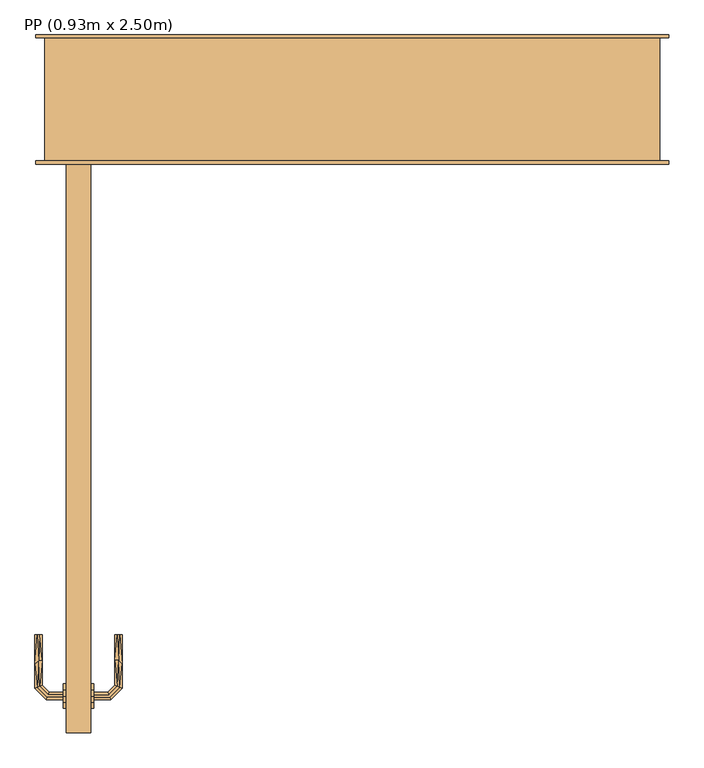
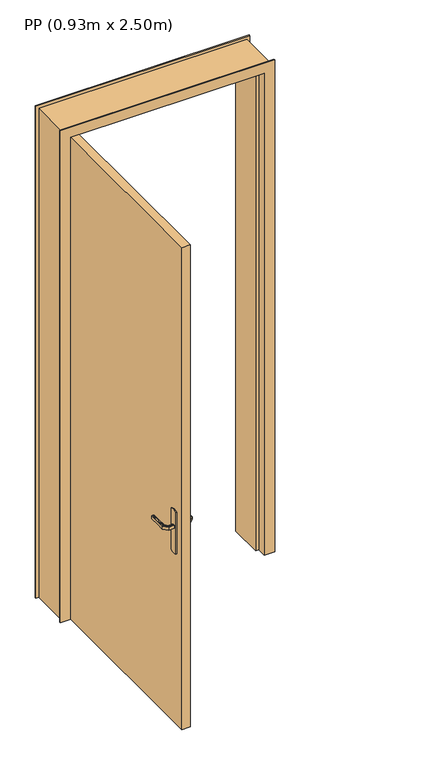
"""IFC4 building model written with IfcOpenShell, lengths in millimetres: door geometry, PP (0.93m x 2.50m)."""

from ifc_helpers import new_model, si_unit, frame, origin, origin_with_axes, place, context, project, spatial, polyline, outline, extrude, faceted_brep, source, transform, mapped, element, save


def pp_0_93m_x_2_50m_4694264f(model_context):
    return source(origin(), model_context, "Body", "SolidModel", [
        extrude(outline(polyline([(145.0, -930.0), (105.0, -930.0), (105.0, 0.0), (145.0, 0.0), (145.0, -930.0)])), origin_with_axes(), (0.0, 0.0, 1.0), 2450.0),
        faceted_brep([(150.0, -867.9747013, 992.2195592), (150.0, -872.0252987, 992.2195592), (150.0, -876.0, 993.0), (150.0, -876.0, 1007.0), (150.0, -872.0252987, 1007.7804408), (150.0, -867.9747013, 1007.7804408), (150.0, -864.0, 1007.0), (150.0, -864.0, 993.0), (172.4852045, -864.0, 1007.0), (172.4852045, -864.0, 993.0), (174.1315797, -867.9747013, 1007.7804408), (175.8093921, -872.0252987, 1007.7804408), (191.9957845, -855.8389062, 1007.7804408), (187.9451872, -854.1610938, 1007.7804408), (177.4557673, -876.0, 1007.0), (177.4557673, -876.0, 993.0), (175.8093921, -872.0252987, 992.2195592), (174.1315797, -867.9747013, 992.2195592), (187.9451872, -854.1610938, 992.2195592), (191.9957845, -855.8389062, 992.2195592), (183.9704859, -852.5147186, 1007.0), (183.9704859, -852.5147186, 993.0), (195.9704859, -857.4852814, 1007.0), (195.9704859, -857.4852814, 993.0), (187.9451872, -769.9542163, 1007.7804408), (191.9957845, -769.9542163, 1007.7804408), (195.9704859, -769.9542163, 1007.0), (195.9704859, -769.9542163, 993.0), (191.9957845, -769.9542163, 992.2195592), (187.9451872, -769.9542163, 992.2195592), (183.9704859, -769.9542163, 993.0), (183.9704859, -769.9542163, 1007.0), (183.9704859, -811.2344675, 1007.0), (183.9704859, -811.2344794, 993.0), (189.9704859, -812.0576551, 1007.8786868), (195.9704859, -817.5547942, 1007.0), (195.9704859, -817.5547957, 993.0), (189.9704858, -812.0576549, 992.1213132)], [[[0, 1, 2, 3, 4, 5, 6, 7]], [[8, 9, 7, 6]], [[5, 10, 8, 6]], [[5, 4, 11, 12, 13, 10]], [[3, 14, 11, 4]], [[14, 3, 2, 15]], [[2, 1, 16, 15]], [[1, 0, 17, 18, 19, 16]], [[0, 7, 9, 17]], [[20, 21, 9, 8]], [[8, 10, 13, 20]], [[14, 22, 12, 11]], [[23, 22, 14, 15]], [[15, 16, 19, 23]], [[17, 9, 21, 18]], [[24, 25, 26, 27, 28, 29, 30, 31]], [[21, 20, 32, 31, 30, 33]], [[34, 24, 32]], [[25, 34, 35]], [[13, 32, 20]], [[24, 31, 32]], [[25, 35, 26]], [[35, 12, 22]], [[34, 12, 35]], [[34, 13, 12]], [[34, 32, 13]], [[24, 34, 25]], [[22, 23, 36, 27, 26, 35]], [[37, 28, 36]], [[36, 28, 27]], [[36, 23, 19]], [[18, 33, 37]], [[33, 18, 21]], [[30, 29, 33]], [[37, 29, 28]], [[37, 33, 29]], [[37, 36, 19]], [[18, 37, 19]]]),
        faceted_brep([(1070.0, 200.0, 0.0), (1070.0, 0.0, 0.0), (1085.0, 0.0, 0.0), (1085.0, -5.0, 0.0), (1035.0, -5.0, 0.0), (1035.0, 40.0, 0.0), (1020.0, 40.0, 0.0), (1020.0, 205.0, 0.0), (1085.0, 205.0, 0.0), (1085.0, 200.0, 0.0), (1085.0, 200.0, 2500.0), (55.0, 200.0, 2500.0), (55.0, 200.0, 0.0), (70.0, 200.0, 0.0), (70.0, 200.0, 2485.0), (1070.0, 200.0, 2485.0), (1085.0, 205.0, 2500.0), (1020.0, 205.0, 2435.0), (120.0, 205.0, 2435.0), (120.0, 205.0, 0.0), (55.0, 205.0, 0.0), (55.0, 205.0, 2500.0), (1020.0, 40.0, 2435.0), (1035.0, 40.0, 2450.0), (105.0, 40.0, 2450.0), (105.0, 40.0, 0.0), (120.0, 40.0, 0.0), (120.0, 40.0, 2435.0), (1035.0, -5.0, 2450.0), (1085.0, -5.0, 2500.0), (55.0, -5.0, 2500.0), (55.0, -5.0, 0.0), (105.0, -5.0, 0.0), (105.0, -5.0, 2450.0), (1085.0, 0.0, 2500.0), (1070.0, 0.0, 2485.0), (70.0, 0.0, 2485.0), (70.0, 0.0, 0.0), (55.0, 0.0, 0.0), (55.0, 0.0, 2500.0)], [[[0, 1, 2, 3, 4, 5, 6, 7, 8, 9]], [[9, 10, 11, 12, 13, 14, 15, 0]], [[8, 16, 10, 9]], [[7, 17, 18, 19, 20, 21, 16, 8]], [[7, 6, 22, 17]], [[5, 23, 24, 25, 26, 27, 22, 6]], [[5, 4, 28, 23]], [[3, 29, 30, 31, 32, 33, 28, 4]], [[2, 34, 29, 3]], [[1, 35, 36, 37, 38, 39, 34, 2]], [[0, 15, 35, 1]], [[14, 13, 37, 36]], [[13, 12, 20, 19, 26, 25, 32, 31, 38, 37]], [[21, 20, 12, 11]], [[27, 26, 19, 18]], [[33, 32, 25, 24]], [[39, 38, 31, 30]], [[16, 21, 11, 10]], [[22, 27, 18, 17]], [[28, 33, 24, 23]], [[34, 39, 30, 29]], [[15, 14, 36, 35]]]),
        faceted_brep([(100.0, -867.9747013, 1007.7804408), (100.0, -872.0252987, 1007.7804408), (100.0, -876.0, 1007.0), (100.0, -876.0, 993.0), (100.0, -872.0252987, 992.2195592), (100.0, -867.9747013, 992.2195592), (100.0, -864.0, 993.0), (100.0, -864.0, 1007.0), (73.9954245, -872.0252987, 1007.7804408), (72.3490493, -876.0, 1007.0), (75.6732368, -867.9747013, 1007.7804408), (61.997138, -854.2986025, 1007.7804408), (57.9465407, -855.9764148, 1007.7804408), (77.319612, -864.0, 1007.0), (77.319612, -864.0, 993.0), (75.6732368, -867.9747013, 992.2195592), (73.9954245, -872.0252987, 992.2195592), (57.9465407, -855.9764148, 992.2195592), (61.997138, -854.2986025, 992.2195592), (72.3490493, -876.0, 993.0), (53.9718393, -857.62279, 1007.0), (65.9718393, -852.6522273, 1007.0), (65.9718393, -852.6522273, 993.0), (53.9718393, -857.62279, 993.0), (53.9718393, -769.9813594, 1007.0), (57.9465407, -769.9813594, 1007.7804408), (61.997138, -769.9813594, 1007.7804408), (65.9718393, -769.9813594, 1007.0), (65.9718393, -769.9813594, 993.0), (61.997138, -769.9813594, 992.2195592), (57.9465407, -769.9813594, 992.2195592), (53.9718393, -769.9813594, 993.0), (59.9718393, -812.1399809, 1007.8786868), (53.9718393, -817.6923028, 1007.0), (65.9718393, -811.3167933, 1007.0), (65.9718393, -811.3167933, 993.0), (59.9718392, -812.1399811, 992.1213132), (53.9718393, -817.6923104, 993.0)], [[[0, 1, 2, 3, 4, 5, 6, 7]], [[2, 1, 8, 9]], [[1, 0, 10, 11, 12, 8]], [[0, 7, 13, 10]], [[14, 13, 7, 6]], [[5, 15, 14, 6]], [[5, 4, 16, 17, 18, 15]], [[3, 19, 16, 4]], [[9, 19, 3, 2]], [[9, 8, 12, 20]], [[10, 13, 21, 11]], [[22, 21, 13, 14]], [[14, 15, 18, 22]], [[16, 19, 23, 17]], [[20, 23, 19, 9]], [[24, 25, 26, 27, 28, 29, 30, 31]], [[32, 25, 33]], [[33, 25, 24]], [[33, 20, 12]], [[11, 34, 32]], [[34, 11, 21]], [[27, 26, 34]], [[32, 26, 25]], [[32, 34, 26]], [[32, 33, 12]], [[11, 32, 12]], [[21, 22, 35, 28, 27, 34]], [[36, 29, 35]], [[30, 36, 37]], [[18, 35, 22]], [[29, 28, 35]], [[30, 37, 31]], [[37, 17, 23]], [[36, 17, 37]], [[36, 18, 17]], [[36, 35, 18]], [[29, 36, 30]], [[23, 20, 33, 24, 31, 37]]]),
        extrude(outline(polyline([(-890.0, 870.0), (-890.0, 1080.0), (-880.3527618, 1083.9960169), (-870.0, 1085.3589838), (-859.6472382, 1083.9960169), (-850.0, 1080.0), (-850.0, 870.0), (-859.6472382, 866.0039831), (-870.0, 864.6410162), (-880.3527618, 866.0039831), (-890.0, 870.0)])), frame((145.0, 0.0, 0.0), z_axis=(1.0, 0.0, 0.0), x_axis=(0.0, 1.0, 0.0)), (0.0, 0.0, 1.0), 5.0),
        extrude(outline(polyline([(-890.0, 870.0), (-890.0, 1080.0), (-880.3527618, 1083.9960169), (-870.0, 1085.3589838), (-859.6472382, 1083.9960169), (-850.0, 1080.0), (-850.0, 870.0), (-859.6472382, 866.0039831), (-870.0, 864.6410162), (-880.3527618, 866.0039831), (-890.0, 870.0)])), frame((100.0, 0.0, 0.0), z_axis=(1.0, 0.0, 0.0), x_axis=(0.0, 1.0, 0.0)), (0.0, 0.0, 1.0), 5.0),
    ])


if __name__ == "__main__":
    model = new_model("IFC4")
    model_context = context("Model", 3, world=origin())
    ifc_project = project(units=[si_unit("LENGTHUNIT", "METRE", prefix="MILLI")], contexts=[model_context])
    site = spatial("IfcSite", under=ifc_project)
    building = spatial("IfcBuilding", under=site)
    placement = place(None, origin())
    pp_0_93m_x_2_50m_shape = pp_0_93m_x_2_50m_4694264f(model_context)
    element("IfcDoor", 1, ObjectType="PP (0.93m x 2.50m)", at=placement, inside=building, context=model_context, shape_type="MappedRepresentation", body=[
        mapped(pp_0_93m_x_2_50m_shape, transform((0.0, 0.0, 0.0), x_axis=(1.0, 0.0, 0.0), y_axis=(0.0, 1.0, 0.0), z_axis=(0.0, 0.0, 1.0))),
    ])
    save(model, "model.ifc")
